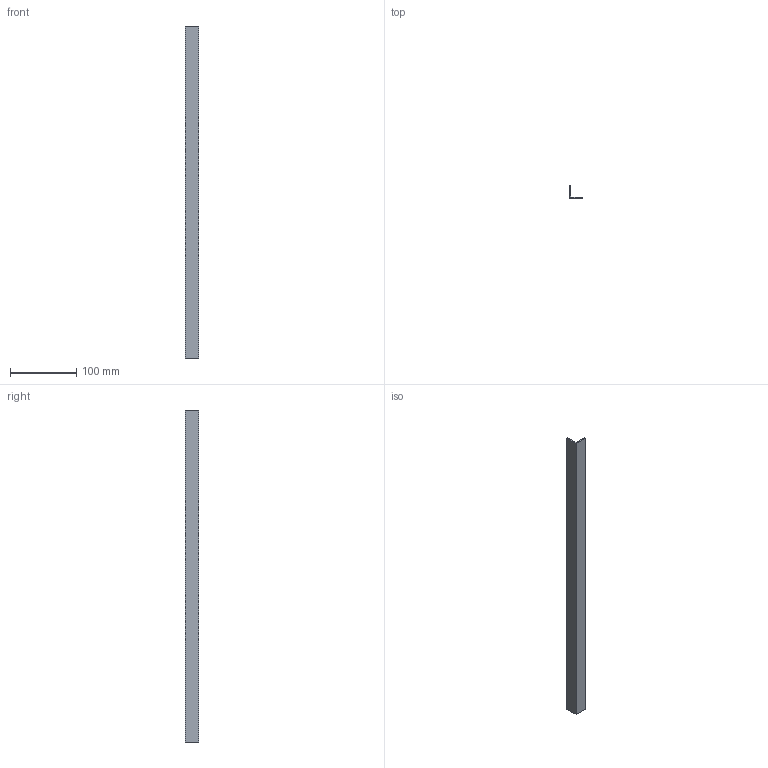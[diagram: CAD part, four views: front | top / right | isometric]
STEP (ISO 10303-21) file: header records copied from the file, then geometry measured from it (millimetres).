
FILE_DESCRIPTION (( 'STEP AP214' ), '1' );
FILE_NAME ('A40103.step', '2024-12-03T16:11:12', ( '' ), ( '' ), 'SwSTEP 2.0', 'SolidWorks 2023', '' );
FILE_SCHEMA (( 'AUTOMOTIVE_DESIGN' ));
Length unit declared in the file: millimetre
Products named in the file (1): A40103
Bounding box: 20 x 20 x 500 mm (x, y, z)
Volume: 38000 mm3; surface area: 40152 mm2
Topology: 1 solids, 1 shells, 8 faces, 18 edges, 12 vertices
Faces by surface type: plane 8
Entity records: 245 total; most frequent: CARTESIAN_POINT 39, ORIENTED_EDGE 36, DIRECTION 36, VECTOR 18, EDGE_CURVE 18, LINE 18, VERTEX_POINT 12, AXIS2_PLACEMENT_3D 9
